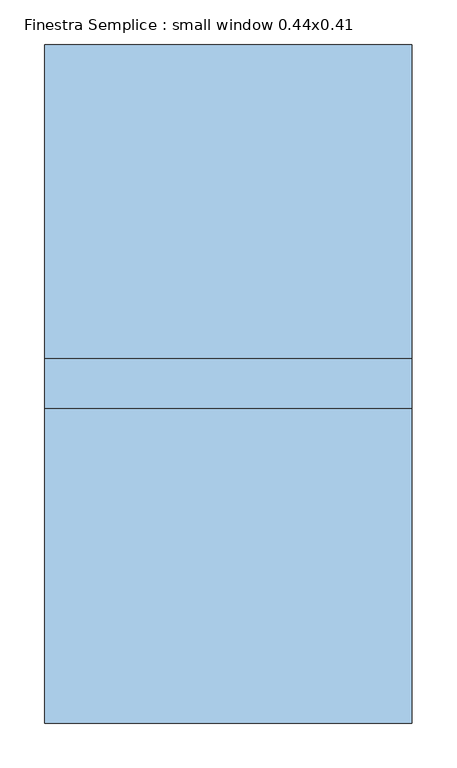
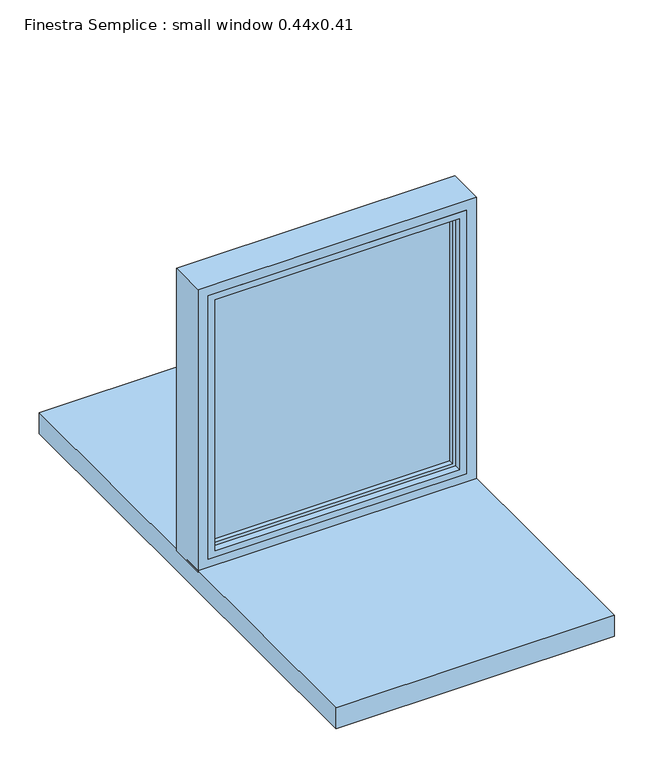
"""IFC4 building model written with IfcOpenShell, lengths in millimetres: window geometry, Finestra Semplice : small window 0.44x0.41."""

from ifc_helpers import new_model, si_unit, frame, origin, place, context, project, spatial, polyline, ellipse_curve, outline, extrude, faceted_brep, source, transform, mapped, element, save
from ifc_brep_helpers import plane_surface, cylinder_surface, advanced_brep


def finestra_semplice_small_window_0_44x0_41_8847f569(model_context):
    return source(origin(), model_context, "Body", "SolidModel", [
        extrude(outline(polyline([(175.0, -3.0), (-175.0, -3.0), (-175.0, 9.8627388), (175.0, 9.8627388), (175.0, -3.0)])), frame((0.0, 0.0, 830.0), z_axis=(0.0, 0.0, 1.0), x_axis=(1.0, 0.0, 0.0)), (0.0, 0.0, 1.0), 380.0),
        faceted_brep([(-190.0, -20.0, 1225.0), (-190.0, 20.0, 1225.0), (-190.0, 20.0, 815.0), (-190.0, -20.0, 815.0), (190.0, 20.0, 1225.0), (190.0, 20.0, 815.0), (-175.0, 20.0, 1210.0), (-175.0, 20.0, 830.0), (175.0, 20.0, 830.0), (175.0, 20.0, 1210.0), (190.0, -20.0, 815.0), (190.0, -20.0, 1225.0), (180.0, -20.0, 1215.0), (180.0, -20.0, 825.0), (-180.0, -20.0, 825.0), (-180.0, -20.0, 1215.0), (-180.0, -10.0, 1215.0), (-180.0, -10.0, 825.0), (180.0, -10.0, 825.0), (180.0, -10.0, 1215.0), (175.0, -10.0, 1210.0), (175.0, -10.0, 830.0), (-175.0, -10.0, 830.0), (-175.0, -10.0, 1210.0)], [[[0, 1, 2, 3]], [[4, 5, 2, 1], [6, 7, 8, 9]], [[3, 2, 5, 10]], [[0, 3, 10, 11], [12, 13, 14, 15]], [[16, 15, 14, 17]], [[17, 14, 13, 18]], [[16, 17, 18, 19], [20, 21, 22, 23]], [[6, 23, 22, 7]], [[7, 22, 21, 8]], [[10, 5, 4, 11]], [[18, 13, 12, 19]], [[8, 21, 20, 9]], [[11, 4, 1, 0]], [[19, 12, 15, 16]], [[9, 20, 23, 6]]]),
        advanced_brep(
        [(-205.0, 35.0, 1240.0), (-205.0, 35.0, 800.0), (-205.0, -20.0, 800.0), (-205.0, -20.0, 1240.0), (205.0, 35.0, 1240.0), (205.0, 35.0, 800.0), (-185.0, 35.0, 820.0), (185.0, 35.0, 820.0), (185.0, 35.0, 1220.0), (-185.0, 35.0, 1220.0), (205.0, -20.0, 800.0), (205.0, -20.0, 1240.0), (-190.0, -20.0, 1225.0), (190.0, -20.0, 1225.0), (190.0, -20.0, 815.0), (-190.0, -20.0, 815.0), (-190.0, 20.0, 1225.0), (-190.0, 20.0, 815.0), (190.0, 20.0, 815.0), (190.0, 20.0, 1225.0), (-180.0, 20.0, 1215.0), (180.0, 20.0, 1215.0), (180.0, 20.0, 825.0), (-180.0, 20.0, 825.0), (-180.0, 30.0, 1215.0), (-180.0, 30.0, 825.0), (180.0, 30.0, 825.0), (180.0, 30.0, 1215.0)],
        [
            (0, 1),
            (1, 2),
            (2, 3),
            (3, 0),
            (0, 4),
            (4, 5),
            (5, 1),
            (6, 7),
            (7, 8),
            (8, 9),
            (9, 6),
            (5, 10),
            (10, 2),
            (10, 11),
            (11, 3),
            (12, 13),
            (13, 14),
            (14, 15),
            (15, 12),
            (16, 12),
            (15, 17),
            (17, 16),
            (14, 18),
            (18, 17),
            (18, 19),
            (19, 16),
            (20, 21),
            (21, 22),
            (22, 23),
            (23, 20),
            (24, 20),
            (23, 25),
            (25, 24),
            (22, 26),
            (26, 25),
            (9, 24, ellipse_curve(frame((-185.0, 30.0, 1220.0), z_axis=(-0.7071067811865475, 0.0, -0.7071067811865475), x_axis=(-0.7071067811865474, 0.0, 0.7071067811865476)), 7.0710678, 5.0)),
            (25, 6, ellipse_curve(frame((-185.0, 30.0, 820.0), z_axis=(-0.7071067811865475, 0.0, 0.7071067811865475), x_axis=(0.7071067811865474, 0.0, 0.7071067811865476)), 7.0710678, 5.0)),
            (26, 7, ellipse_curve(frame((185.0, 30.0, 820.0), z_axis=(-0.7071067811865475, 0.0, -0.7071067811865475), x_axis=(-0.7071067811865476, 0.0, 0.7071067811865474)), 7.0710678, 5.0)),
            (4, 11),
            (13, 19),
            (21, 27),
            (27, 26),
            (27, 8, ellipse_curve(frame((185.0, 30.0, 1220.0), z_axis=(0.7071067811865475, 0.0, -0.7071067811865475), x_axis=(-0.7071067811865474, 0.0, -0.7071067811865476)), 7.0710678, 5.0)),
            (24, 27),
        ],
        [
            plane_surface(frame((-205.0, 0.0, 1240.0), z_axis=(-1.0, 0.0, 0.0), x_axis=(0.0, 0.0, -1.0))),
            plane_surface(frame((185.0, 35.0, 1220.0), z_axis=(0.0, 1.0, 0.0), x_axis=(-1.0, 0.0, 0.0))),
            plane_surface(frame((-205.0, 0.0, 800.0), z_axis=(0.0, 0.0, -1.0), x_axis=(1.0, 0.0, 0.0))),
            plane_surface(frame((205.0, -20.0, 1240.0), z_axis=(0.0, -1.0, 0.0), x_axis=(-1.0, 0.0, 0.0))),
            plane_surface(frame((-190.0, -20.0, 1225.0), z_axis=(1.0, 0.0, 0.0), x_axis=(0.0, 0.0, -1.0))),
            plane_surface(frame((-190.0, -20.0, 815.0), z_axis=(0.0, 0.0, 1.0), x_axis=(1.0, 0.0, 0.0))),
            plane_surface(frame((190.0, 20.0, 1225.0), z_axis=(0.0, -1.0, 0.0), x_axis=(-1.0, 0.0, 0.0))),
            plane_surface(frame((-180.0, 20.0, 1215.0), z_axis=(1.0, 0.0, 0.0), x_axis=(0.0, 0.0, -1.0))),
            plane_surface(frame((-180.0, 20.0, 825.0), z_axis=(0.0, 0.0, 1.0), x_axis=(1.0, 0.0, 0.0))),
            cylinder_surface(frame((-185.0, 30.0, 1240.0), z_axis=(0.0, 0.0, 1.0), x_axis=(1.0, 0.0, 0.0)), 5.0),
            cylinder_surface(frame((-205.0, 30.0, 820.0), z_axis=(-1.0, 0.0, 0.0), x_axis=(0.0, 0.0, 1.0)), 5.0),
            plane_surface(frame((205.0, 0.0, 800.0), z_axis=(1.0, 0.0, 0.0), x_axis=(0.0, 0.0, 1.0))),
            plane_surface(frame((190.0, -20.0, 815.0), z_axis=(-1.0, 0.0, 0.0), x_axis=(0.0, 0.0, 1.0))),
            plane_surface(frame((180.0, 20.0, 825.0), z_axis=(-1.0, 0.0, 0.0), x_axis=(0.0, 0.0, 1.0))),
            cylinder_surface(frame((185.0, 30.0, 800.0), z_axis=(0.0, 0.0, -1.0), x_axis=(-1.0, 0.0, 0.0)), 5.0),
            plane_surface(frame((205.0, 0.0, 1240.0), z_axis=(0.0, 0.0, 1.0), x_axis=(-1.0, 0.0, 0.0))),
            plane_surface(frame((190.0, -20.0, 1225.0), z_axis=(0.0, 0.0, -1.0), x_axis=(-1.0, 0.0, 0.0))),
            plane_surface(frame((180.0, 20.0, 1215.0), z_axis=(0.0, 0.0, -1.0), x_axis=(-1.0, 0.0, 0.0))),
            cylinder_surface(frame((205.0, 30.0, 1220.0), z_axis=(1.0, 0.0, 0.0), x_axis=(0.0, 0.0, -1.0)), 5.0),
        ],
        [
            (0, [[1, 2, 3, 4]]),
            (1, [[5, 6, 7, -1], [8, 9, 10, 11]]),
            (2, [[-2, -7, 12, 13]]),
            (3, [[-13, 14, 15, -3], [16, 17, 18, 19]]),
            (4, [[20, -19, 21, 22]]),
            (5, [[-21, -18, 23, 24]]),
            (6, [[-24, 25, 26, -22], [27, 28, 29, 30]]),
            (7, [[31, -30, 32, 33]]),
            (8, [[-32, -29, 34, 35]]),
            (9, [[36, -33, 37, -11]]),
            (10, [[-37, -35, 38, -8]]),
            (11, [[-12, -6, 39, -14]]),
            (12, [[-23, -17, 40, -25]]),
            (13, [[-34, -28, 41, 42]]),
            (14, [[-38, -42, 43, -9]]),
            (15, [[-39, -5, -4, -15]]),
            (16, [[-40, -16, -20, -26]]),
            (17, [[-41, -27, -31, 44]]),
            (18, [[-43, -44, -36, -10]]),
        ],
    ),
        extrude(outline(polyline([(205.0, -371.4372612), (-205.0, -371.4372612), (-205.0, 385.1627389), (205.0, 385.1627389), (205.0, -371.4372612)])), frame((0.0, 0.0, 770.0), z_axis=(0.0, 0.0, 1.0), x_axis=(1.0, 0.0, 0.0)), (0.0, 0.0, 1.0), 33.0),
    ])


if __name__ == "__main__":
    model = new_model("IFC4")
    model_context = context("Model", 3, world=origin())
    ifc_project = project(units=[si_unit("LENGTHUNIT", "METRE", prefix="MILLI")], contexts=[model_context])
    site = spatial("IfcSite", under=ifc_project)
    building = spatial("IfcBuilding", under=site)
    placement = place(None, origin())
    finestra_semplice_small_window_0_44x0_41_shape = finestra_semplice_small_window_0_44x0_41_8847f569(model_context)
    element("IfcWindow", 1, ObjectType="Finestra Semplice : small window 0.44x0.41", at=placement, inside=building, context=model_context, shape_type="MappedRepresentation", body=[
        mapped(finestra_semplice_small_window_0_44x0_41_shape, transform((0.0, 0.0, 0.0), x_axis=(1.0, 0.0, 0.0), y_axis=(0.0, 1.0, 0.0), z_axis=(0.0, 0.0, 1.0))),
    ])
    save(model, "model.ifc")
